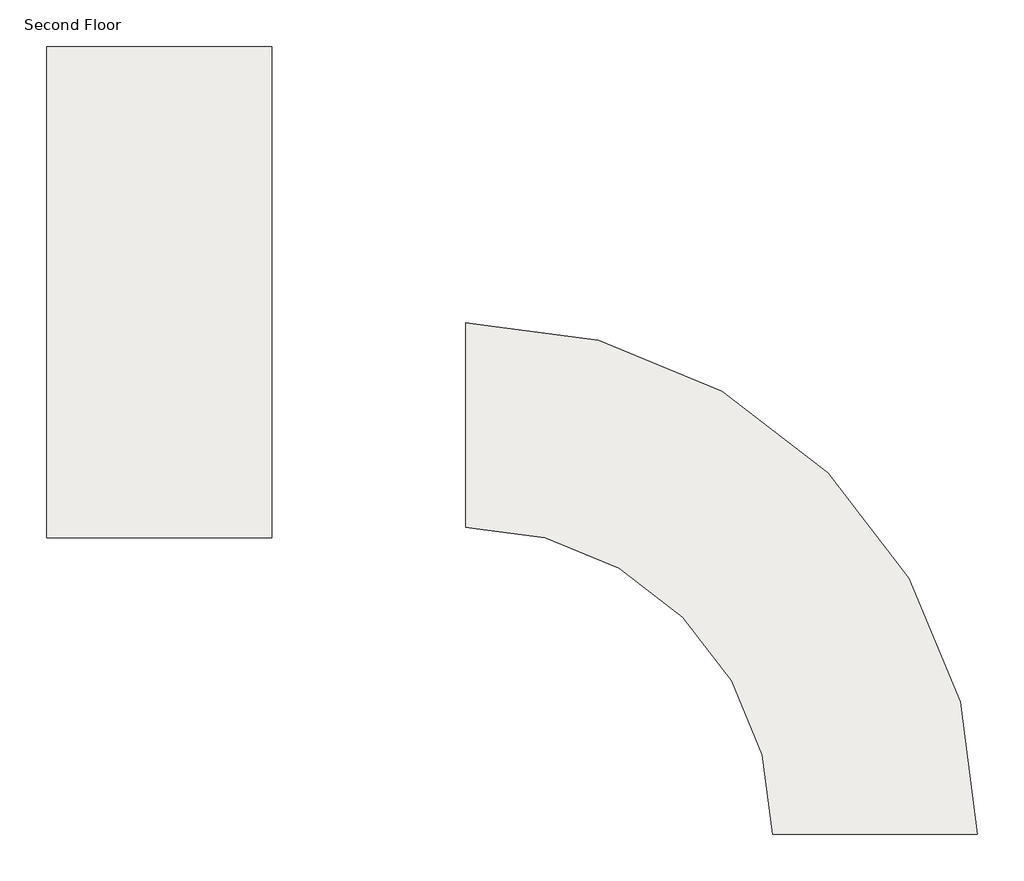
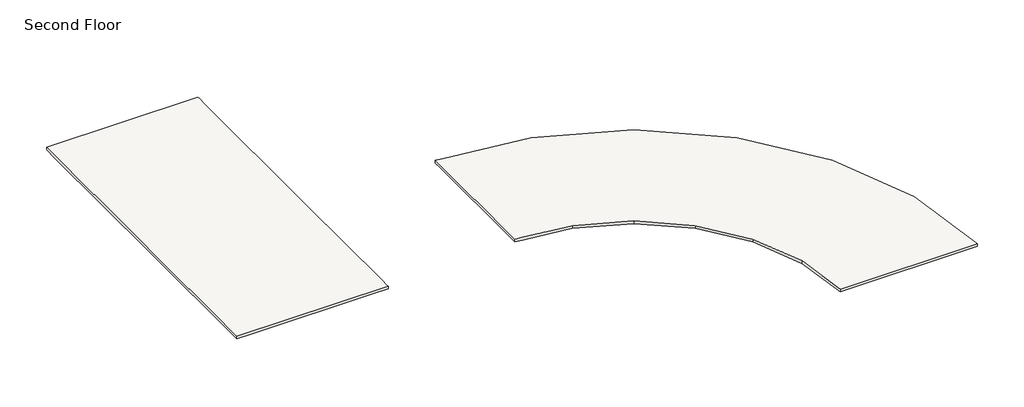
# One storey: 2 slabs.
"""IFC4 building model written with IfcOpenShell, lengths in millimetres."""

from ifc_helpers import new_model, si_unit, origin, place, context, project, spatial, faceted_brep, element, save

model = new_model("IFC4")

# Units and contexts
model_context = context("Model", 3, world=origin())
ifc_project = project(units=[si_unit("LENGTHUNIT", "METRE", prefix="MILLI")], contexts=[model_context])

# Site, building, storey
site = spatial("IfcSite", under=ifc_project)
building = spatial("IfcBuilding", under=site)
storey = spatial("IfcBuildingStorey", under=building, Name="Second Floor", Elevation=3048.0)

# Slabs
placement = place(None, origin())
element("IfcSlab", 1, ObjectType="3\" LW Concrete on 2\" Metal Deck", at=placement, inside=storey, context=model_context, shape_type="Brep", body=[
    faceted_brep([(-26288.4369924, -1905.2778893, 2921.0), (-28350.2783408, -1633.8313262, 2921.0), (-28655.0783408, -1593.7036449, 2921.0), (-28655.0783408, -1288.9036449, 2921.0), (-28655.0783408, 4197.4963551, 2921.0), (-28655.0783408, 4502.2963551, 2921.0), (-28350.2783408, 4462.1686738, 2921.0), (-24710.6760935, 3983.0059477, 2921.0), (-21035.0783408, 2460.5235088, 2921.0), (-17878.7709955, 38.6037004, 2921.0), (-15456.8511871, -3117.7036449, 2921.0), (-13934.3687482, -6793.3013975, 2921.0), (-13415.0783408, -10737.7036449, 2921.0), (-19511.0783408, -10737.7036449, 2921.0), (-19822.6525852, -8371.0622965, 2921.0), (-20736.1420486, -6165.7036449, 2921.0), (-22189.2939336, -4271.9192377, 2921.0), (-24083.0783408, -2818.7673527, 2921.0), (-26288.4369924, -1905.2778893, 3048.0), (-24083.0783408, -2818.7673527, 3048.0), (-22189.2939336, -4271.9192377, 3048.0), (-20736.1420486, -6165.7036449, 3048.0), (-19822.6525852, -8371.0622965, 3048.0), (-19511.0783408, -10737.7036449, 3048.0), (-13415.0783408, -10737.7036449, 3048.0), (-13934.3687482, -6793.3013975, 3048.0), (-15456.8511871, -3117.7036449, 3048.0), (-17878.7709955, 38.6037004, 3048.0), (-21035.0783408, 2460.5235088, 3048.0), (-24710.6760935, 3983.0059477, 3048.0), (-28350.2783408, 4462.1686738, 3048.0), (-28655.0783408, 4502.2963551, 3048.0), (-28655.0783408, 4197.4963551, 3048.0), (-28655.0783408, -1288.9036449, 3048.0), (-28655.0783408, -1593.7036449, 3048.0), (-28350.2783408, -1633.8313262, 3048.0)], [[[0, 1, 2, 3, 4, 5, 6, 7, 8, 9, 10, 11, 12, 13, 14, 15, 16, 17]], [[18, 19, 20, 21, 22, 23, 24, 25, 26, 27, 28, 29, 30, 31, 32, 33, 34, 35]], [[2, 1, 0, 18, 35, 34]], [[5, 4, 3, 2, 34, 33, 32, 31]], [[7, 6, 5, 31, 30, 29]], [[8, 7, 29, 28]], [[9, 8, 28, 27]], [[10, 9, 27, 26]], [[11, 10, 26, 25]], [[12, 11, 25, 24]], [[13, 12, 24, 23]], [[14, 13, 23, 22]], [[15, 14, 22, 21]], [[16, 15, 21, 20]], [[17, 16, 20, 19]], [[0, 17, 19, 18]]]),
])
element("IfcSlab", 2, ObjectType="LW Concrete on Metal Deck", at=placement, inside=storey, context=model_context, shape_type="Brep", body=[
    faceted_brep([(-34446.2783408, 12731.8963551, 2927.35), (-34446.2783408, 12122.2963551, 2927.35), (-34446.2783408, 4807.0963551, 2927.35), (-34446.2783408, 4197.4963551, 2927.35), (-34446.2783408, -1288.9036449, 2927.35), (-34446.2783408, -1898.5036449, 2927.35), (-35055.8783408, -1898.5036449, 2927.35), (-40542.2783408, -1898.5036449, 2927.35), (-41151.8783408, -1898.5036449, 2927.35), (-41151.8783408, -1288.9036449, 2927.35), (-41151.8783408, 4197.4963551, 2927.35), (-41151.8783408, 4807.0963551, 2927.35), (-41151.8783408, 12122.2963551, 2927.35), (-41151.8783408, 12731.8963551, 2927.35), (-40542.2783408, 12731.8963551, 2927.35), (-35055.8783408, 12731.8963551, 2927.35), (-34446.2783408, 12731.8963551, 3048.0), (-41151.8783408, 12731.8963551, 3048.0), (-41151.8783408, -1898.5036449, 3048.0), (-34446.2783408, -1898.5036449, 3048.0), (-34446.2783408, -1796.9036449, 3048.0), (-34446.2783408, -1390.5036449, 3048.0), (-34446.2783408, 4349.8963551, 3048.0), (-34446.2783408, 4654.6963551, 3048.0), (-34446.2783408, 12223.8963551, 3048.0), (-34446.2783408, 12630.2963551, 3048.0)], [[[0, 1, 2, 3, 4, 5, 6, 7, 8, 9, 10, 11, 12, 13, 14, 15]], [[16, 17, 18, 19, 20, 21, 22, 23, 24, 25]], [[5, 4, 3, 2, 1, 0, 16, 25, 24, 23, 22, 21, 20, 19]], [[8, 7, 6, 5, 19, 18]], [[13, 12, 11, 10, 9, 8, 18, 17]], [[0, 15, 14, 13, 17, 16]]]),
])

save(model, "model.ifc")
